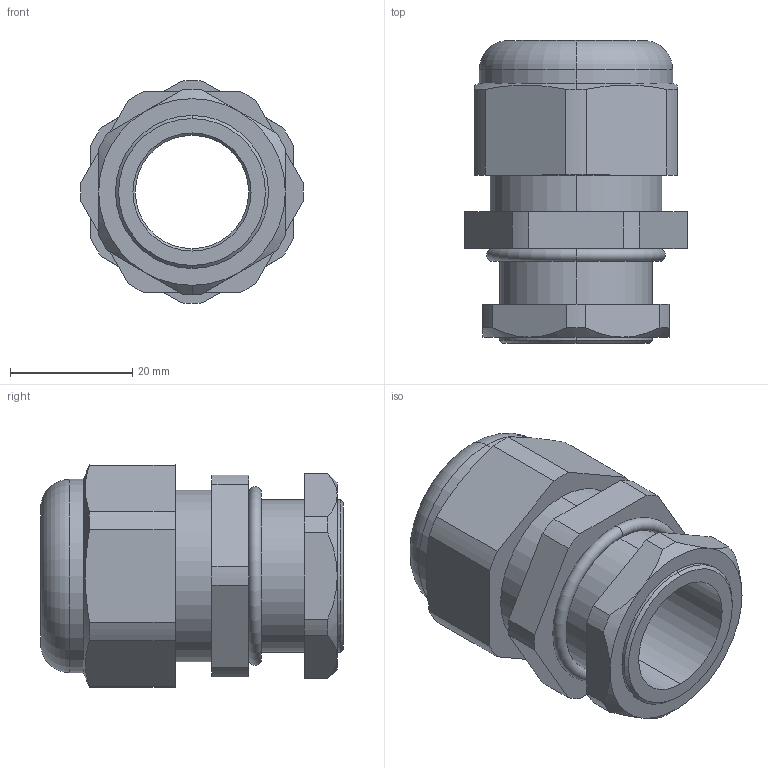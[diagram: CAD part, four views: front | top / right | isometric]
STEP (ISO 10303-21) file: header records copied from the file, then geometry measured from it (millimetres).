
FILE_DESCRIPTION (( 'STEP AP203' ), '1' );
FILE_NAME ('CH-M25L.STEP', '2018-02-07T14:45:11', ( '' ), ( '' ), 'SwSTEP 2.0', 'SolidWorks 2012', '' );
FILE_SCHEMA (( 'CONFIG_CONTROL_DESIGN' ));
Length unit declared in the file: millimetre
Products named in the file (1): CH-M25L
Bounding box: 36.44 x 49.5 x 36.4 mm (x, y, z)
Volume: 23893 mm3; surface area: 10356.7 mm2
Topology: 1 solids, 1 shells, 78 faces, 189 edges, 118 vertices
Faces by surface type: cylinder 34, plane 25, cone 15, torus 4
Entity records: 2478 total; most frequent: CARTESIAN_POINT 532, DIRECTION 415, ORIENTED_EDGE 378, EDGE_CURVE 189, AXIS2_PLACEMENT_3D 165, VERTEX_POINT 118, CIRCLE 86, LINE 85
